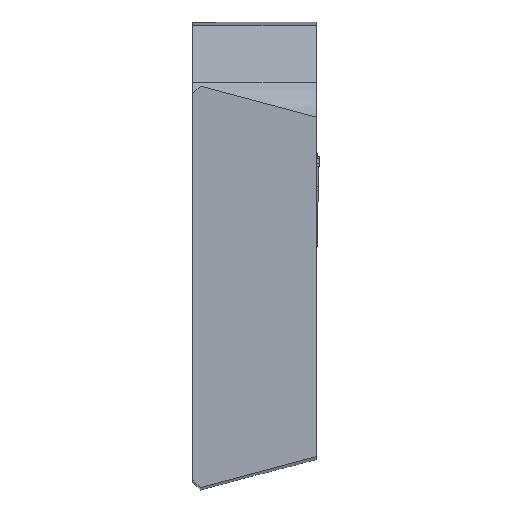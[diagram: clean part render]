
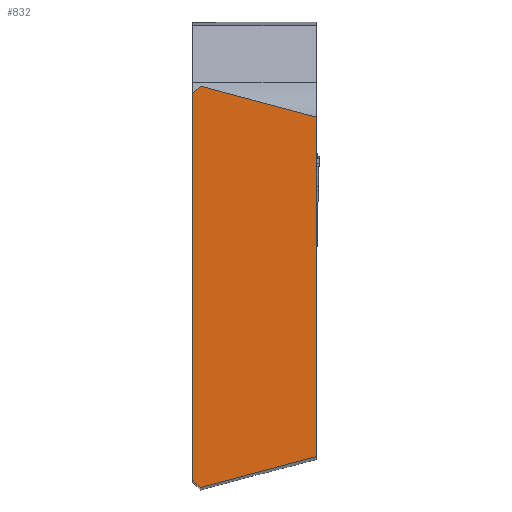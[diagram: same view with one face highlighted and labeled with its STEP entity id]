
A CAD part, top view. The second image highlights one B-rep face of the part: STEP entity #832.
In plain terms, the highlighted planar face has unit normal (0, 0, 1).
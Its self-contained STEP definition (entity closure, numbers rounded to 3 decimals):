
#796=AXIS2_PLACEMENT_3D('Plane Axis2P3D',#793,#794,#795) ;
#494=CARTESIAN_POINT('Vertex',(7.94,2.128,0.)) ;
#497=CARTESIAN_POINT('Line Origine',(4.22,1.131,0.)) ;
#501=CARTESIAN_POINT('Vertex',(0.5,0.134,0.)) ;
#774=CARTESIAN_POINT('Line Origine',(0.25,0.384,0.)) ;
#778=CARTESIAN_POINT('Vertex',(0.,0.634,0.)) ;
#793=CARTESIAN_POINT('Axis2P3D Location',(7.14,-1.58,0.)) ;
#798=CARTESIAN_POINT('Line Origine',(4.22,24.869,0.)) ;
#802=CARTESIAN_POINT('Vertex',(7.94,23.872,0.)) ;
#804=CARTESIAN_POINT('Vertex',(0.5,25.866,0.)) ;
#807=CARTESIAN_POINT('Line Origine',(0.25,25.616,0.)) ;
#811=CARTESIAN_POINT('Vertex',(0.,25.366,0.)) ;
#814=CARTESIAN_POINT('Line Origine',(0.,13.,0.)) ;
#819=CARTESIAN_POINT('Line Origine',(7.94,13.,0.)) ;
#498=DIRECTION('Vector Direction',(-0.966,-0.259,0.)) ;
#775=DIRECTION('Vector Direction',(0.707,-0.707,0.)) ;
#794=DIRECTION('Axis2P3D Direction',(0.,0.,-1.)) ;
#795=DIRECTION('Axis2P3D XDirection',(0.,1.,0.)) ;
#799=DIRECTION('Vector Direction',(-0.966,0.259,0.)) ;
#808=DIRECTION('Vector Direction',(0.707,0.707,0.)) ;
#815=DIRECTION('Vector Direction',(0.,1.,0.)) ;
#820=DIRECTION('Vector Direction',(0.,1.,0.)) ;
#499=VECTOR('Line Direction',#498,1.) ;
#776=VECTOR('Line Direction',#775,1.) ;
#800=VECTOR('Line Direction',#799,1.) ;
#809=VECTOR('Line Direction',#808,1.) ;
#816=VECTOR('Line Direction',#815,1.) ;
#821=VECTOR('Line Direction',#820,1.) ;
#825=ORIENTED_EDGE('',*,*,#806,.T.) ;
#826=ORIENTED_EDGE('',*,*,#813,.F.) ;
#827=ORIENTED_EDGE('',*,*,#818,.F.) ;
#828=ORIENTED_EDGE('',*,*,#780,.T.) ;
#829=ORIENTED_EDGE('',*,*,#503,.F.) ;
#830=ORIENTED_EDGE('',*,*,#823,.T.) ;
#832=ADVANCED_FACE('NO_CUT',(#831),#797,.F.) ;
#503=EDGE_CURVE('',#495,#502,#500,.T.) ;
#780=EDGE_CURVE('',#779,#502,#777,.T.) ;
#806=EDGE_CURVE('',#803,#805,#801,.T.) ;
#813=EDGE_CURVE('',#812,#805,#810,.T.) ;
#818=EDGE_CURVE('',#779,#812,#817,.T.) ;
#823=EDGE_CURVE('',#495,#803,#822,.T.) ;
#824=EDGE_LOOP('',(#825,#826,#827,#828,#829,#830)) ;
#831=FACE_OUTER_BOUND('',#824,.T.) ;
#500=LINE('Line',#497,#499) ;
#777=LINE('Line',#774,#776) ;
#801=LINE('Line',#798,#800) ;
#810=LINE('Line',#807,#809) ;
#817=LINE('Line',#814,#816) ;
#822=LINE('Line',#819,#821) ;
#797=PLANE('',#796) ;
#495=VERTEX_POINT('',#494) ;
#502=VERTEX_POINT('',#501) ;
#779=VERTEX_POINT('',#778) ;
#803=VERTEX_POINT('',#802) ;
#805=VERTEX_POINT('',#804) ;
#812=VERTEX_POINT('',#811) ;
